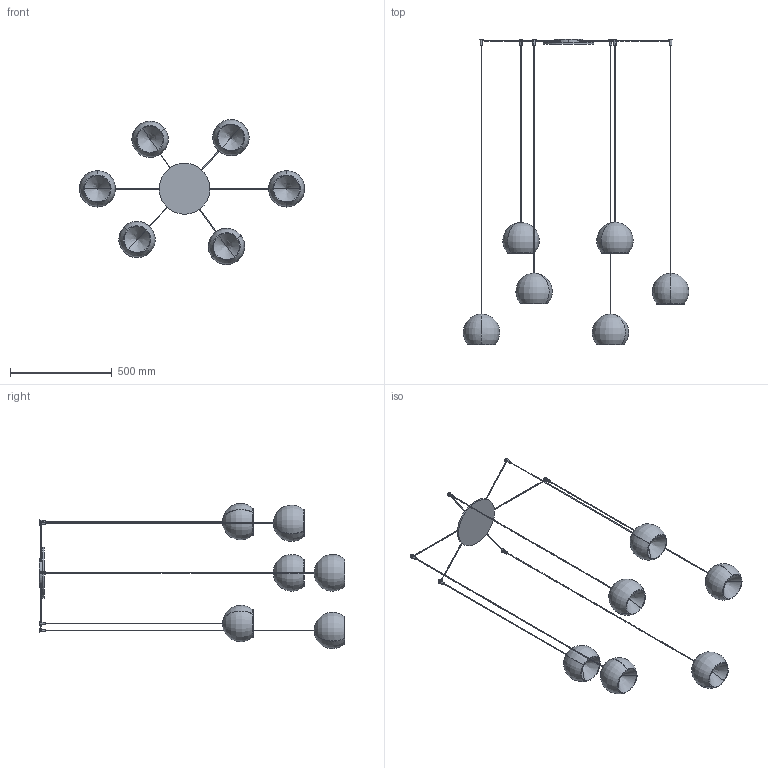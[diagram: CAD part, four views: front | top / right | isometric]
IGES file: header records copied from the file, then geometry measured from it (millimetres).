
Start section: SolidWorks IGES file using analytic representation for surfaces
Global section: file name: Y:\eforma\TECNICO\SOLIDWORKS\E-FORMA\09-LAMPADE\CHERRY\02 parts\CHRA4-00-CHERRY_6 sospensione.IGS; native system: SolidWorks 2022; preprocessor: SolidWorks 2022; author: eforma.tech; date: 250506.081735; units: millimetre
Bounding box: 1107.94 x 1500 x 712.84 mm (x, y, z)
Volume: 1947866.5 mm3; surface area: 1487094.2 mm2
Topology: 31 solids, 31 shells, 229 faces, 484 edges, 306 vertices
Faces by surface type: revolution 154, plane 75
